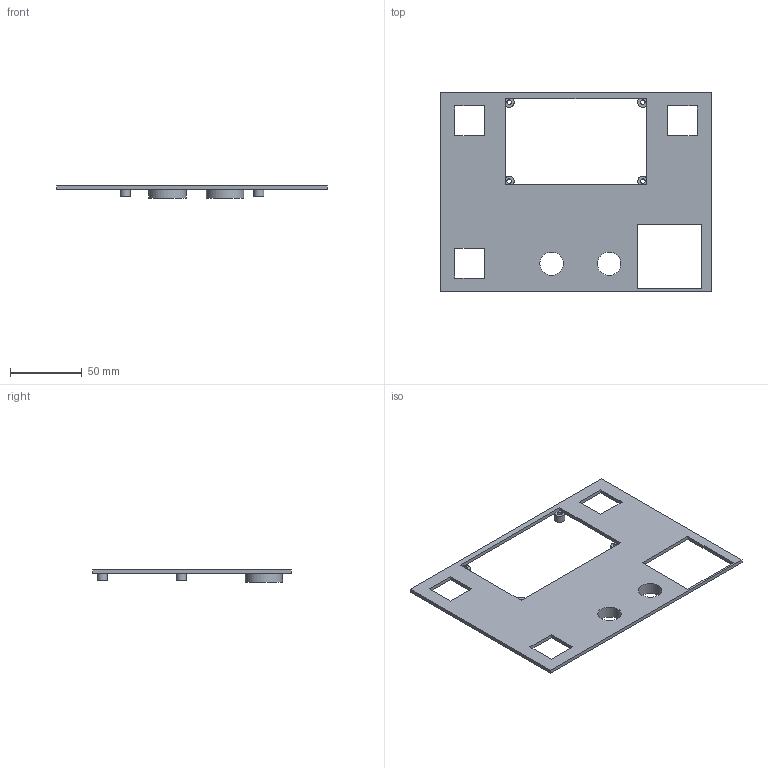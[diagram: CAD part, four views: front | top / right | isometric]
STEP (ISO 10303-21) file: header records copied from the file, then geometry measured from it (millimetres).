
FILE_DESCRIPTION(('Open CASCADE Model'),'2;1');
FILE_NAME('Open CASCADE Shape Model','2026-10-02T15:58:20',('Author'),( 'Open CASCADE'),'Open CASCADE STEP processor 8.0','build123d', 'Unknown');
FILE_SCHEMA(('AUTOMOTIVE_DESIGN { 1 0 10303 214 1 1 1 1 }'));
Length unit declared in the file: millimetre
Products named in the file (1): COMPOUND
Bounding box: 188.4 x 138.4 x 8.5 mm (x, y, z)
Volume: 45611.7 mm3; surface area: 39087.8 mm2
Topology: 1 solids, 1 shells, 48 faces, 140 edges, 88 vertices
Faces by surface type: plane 36, cylinder 12
Full cylindrical faces by diameter (mm): 3.2 x4, 7 x4, 16.3 x2, 26 x2
Entity records: 3362 total; most frequent: CARTESIAN_POINT 661, DIRECTION 454, ORIENTED_EDGE 280, PCURVE 280, DEFINITIONAL_REPRESENTATION 280, LINE 236, VECTOR 236, EDGE_CURVE 140
